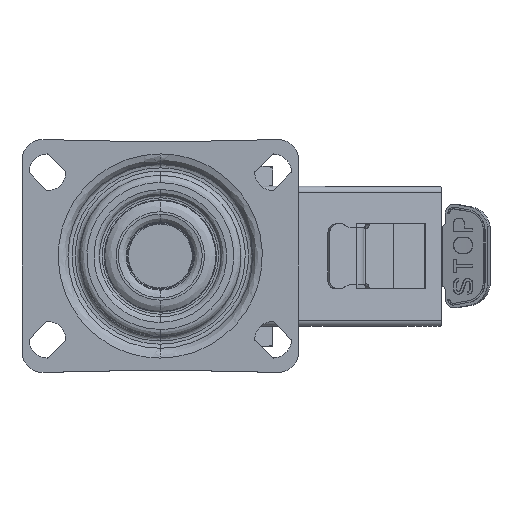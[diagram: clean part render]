
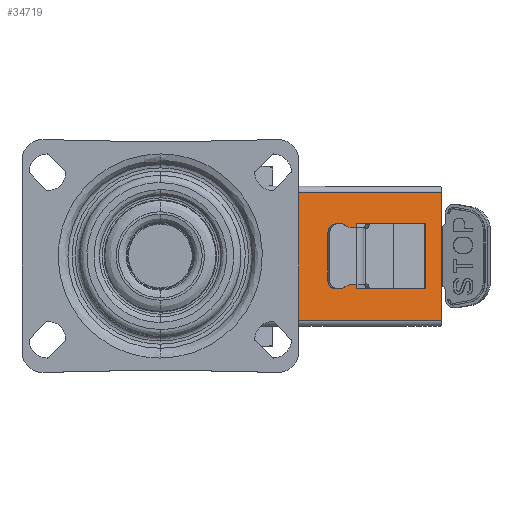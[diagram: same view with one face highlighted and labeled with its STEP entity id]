
A CAD part, top view. The second image highlights one B-rep face of the part: STEP entity #34719.
In plain terms, the highlighted planar face has unit normal (0.264, 0, 0.965).
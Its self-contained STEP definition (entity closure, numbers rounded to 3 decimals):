
#245 = EDGE_CURVE ( 'NONE', #4411, #39726, #11173, .T. ) ;
#1658 = CARTESIAN_POINT ( 'NONE',  ( 91.441, -42.999, 105.51 ) ) ;
#1791 = FACE_BOUND ( 'NONE', #19356, .T. ) ;
#2116 = CARTESIAN_POINT ( 'NONE',  ( 67.715, -20.499, 112.01 ) ) ;
#2707 = LINE ( 'NONE', #40310, #33480 ) ;
#3777 = EDGE_CURVE ( 'NONE', #10926, #4411, #16818, .T. ) ;
#3833 = EDGE_CURVE ( 'NONE', #6034, #38558, #30998, .T. ) ;
#4403 = CARTESIAN_POINT ( 'NONE',  ( 46.707, -9.749, 117.765 ) ) ;
#4411 = VERTEX_POINT ( 'NONE', #1658 ) ;
#4562 = CARTESIAN_POINT ( 'NONE',  ( 67.715, -42.999, 112.01 ) ) ;
#4835 = VECTOR ( 'NONE', #10150, 1000. ) ;
#4929 = ORIENTED_EDGE ( 'NONE', *, *, #3833, .T. ) ;
#5070 = CARTESIAN_POINT ( 'NONE',  ( 96.961, -53.749, 103.998 ) ) ;
#5453 = VECTOR ( 'NONE', #27265, 1000. ) ;
#6034 = VERTEX_POINT ( 'NONE', #24132 ) ;
#6780 = CARTESIAN_POINT ( 'NONE',  ( 46.707, -131.749, 117.765 ) ) ;
#7201 = DIRECTION ( 'NONE',  ( 0., -1., 0. ) ) ;
#7961 = DIRECTION ( 'NONE',  ( 0., -1., 0. ) ) ;
#8239 = DIRECTION ( 'NONE',  ( 0.964, 0., -0.264 ) ) ;
#9981 = LINE ( 'NONE', #13339, #17909 ) ;
#10086 = CARTESIAN_POINT ( 'NONE',  ( 46.707, -9.749, 117.765 ) ) ;
#10150 = DIRECTION ( 'NONE',  ( 0., 1., 0. ) ) ;
#10633 = EDGE_LOOP ( 'NONE', ( #27588, #4929, #32707, #40864 ) ) ;
#10926 = VERTEX_POINT ( 'NONE', #18902 ) ;
#11173 = LINE ( 'NONE', #24535, #5453 ) ;
#13225 = DIRECTION ( 'NONE',  ( -0.964, 0., 0.264 ) ) ;
#13339 = CARTESIAN_POINT ( 'NONE',  ( 91.441, -20.499, 105.51 ) ) ;
#14729 = EDGE_CURVE ( 'NONE', #39449, #6034, #2707, .T. ) ;
#15545 = ORIENTED_EDGE ( 'NONE', *, *, #3777, .T. ) ;
#16818 = LINE ( 'NONE', #38976, #28235 ) ;
#17760 = CARTESIAN_POINT ( 'NONE',  ( 67.715, -20.499, 112.01 ) ) ;
#17909 = VECTOR ( 'NONE', #25475, 1000. ) ;
#18056 = VECTOR ( 'NONE', #7961, 1000. ) ;
#18575 = DIRECTION ( 'NONE',  ( 0., -1., 0. ) ) ;
#18902 = CARTESIAN_POINT ( 'NONE',  ( 91.441, -20.499, 105.51 ) ) ;
#19356 = EDGE_LOOP ( 'NONE', ( #21462, #40871, #15545, #28359 ) ) ;
#19879 = LINE ( 'NONE', #10086, #36447 ) ;
#21349 = LINE ( 'NONE', #17760, #18056 ) ;
#21462 = ORIENTED_EDGE ( 'NONE', *, *, #26729, .F. ) ;
#23219 = EDGE_CURVE ( 'NONE', #27363, #39449, #19879, .T. ) ;
#24132 = CARTESIAN_POINT ( 'NONE',  ( 46.707, -53.749, 117.765 ) ) ;
#24535 = CARTESIAN_POINT ( 'NONE',  ( 91.441, -42.999, 105.51 ) ) ;
#25475 = DIRECTION ( 'NONE',  ( -0.964, 0., 0.264 ) ) ;
#25634 = AXIS2_PLACEMENT_3D ( 'NONE', #6780, #32272, #31452 ) ;
#26729 = EDGE_CURVE ( 'NONE', #34817, #39726, #21349, .T. ) ;
#27265 = DIRECTION ( 'NONE',  ( -0.964, 0., 0.264 ) ) ;
#27323 = FACE_OUTER_BOUND ( 'NONE', #10633, .T. ) ;
#27363 = VERTEX_POINT ( 'NONE', #39400 ) ;
#27588 = ORIENTED_EDGE ( 'NONE', *, *, #14729, .T. ) ;
#28033 = EDGE_CURVE ( 'NONE', #38558, #27363, #29585, .T. ) ;
#28235 = VECTOR ( 'NONE', #7201, 1000. ) ;
#28359 = ORIENTED_EDGE ( 'NONE', *, *, #245, .T. ) ;
#29585 = LINE ( 'NONE', #39405, #4835 ) ;
#30197 = VECTOR ( 'NONE', #8239, 1000. ) ;
#30998 = LINE ( 'NONE', #40008, #30197 ) ;
#31452 = DIRECTION ( 'NONE',  ( 0., -1., 0. ) ) ;
#32272 = DIRECTION ( 'NONE',  ( 0.264, 0., 0.964 ) ) ;
#32389 = EDGE_CURVE ( 'NONE', #10926, #34817, #9981, .T. ) ;
#32707 = ORIENTED_EDGE ( 'NONE', *, *, #28033, .T. ) ;
#33480 = VECTOR ( 'NONE', #18575, 1000. ) ;
#34719 = ADVANCED_FACE ( 'NONE', ( #1791, #27323 ), #40044, .T. ) ;
#34817 = VERTEX_POINT ( 'NONE', #2116 ) ;
#36447 = VECTOR ( 'NONE', #13225, 1000. ) ;
#38558 = VERTEX_POINT ( 'NONE', #5070 ) ;
#38976 = CARTESIAN_POINT ( 'NONE',  ( 91.441, -20.499, 105.51 ) ) ;
#39400 = CARTESIAN_POINT ( 'NONE',  ( 96.961, -9.749, 103.998 ) ) ;
#39405 = CARTESIAN_POINT ( 'NONE',  ( 96.961, -131.749, 103.998 ) ) ;
#39449 = VERTEX_POINT ( 'NONE', #4403 ) ;
#39726 = VERTEX_POINT ( 'NONE', #4562 ) ;
#40008 = CARTESIAN_POINT ( 'NONE',  ( 96.961, -53.749, 103.998 ) ) ;
#40044 = PLANE ( 'NONE',  #25634 ) ;
#40310 = CARTESIAN_POINT ( 'NONE',  ( 46.707, -131.749, 117.765 ) ) ;
#40864 = ORIENTED_EDGE ( 'NONE', *, *, #23219, .T. ) ;
#40871 = ORIENTED_EDGE ( 'NONE', *, *, #32389, .F. ) ;
